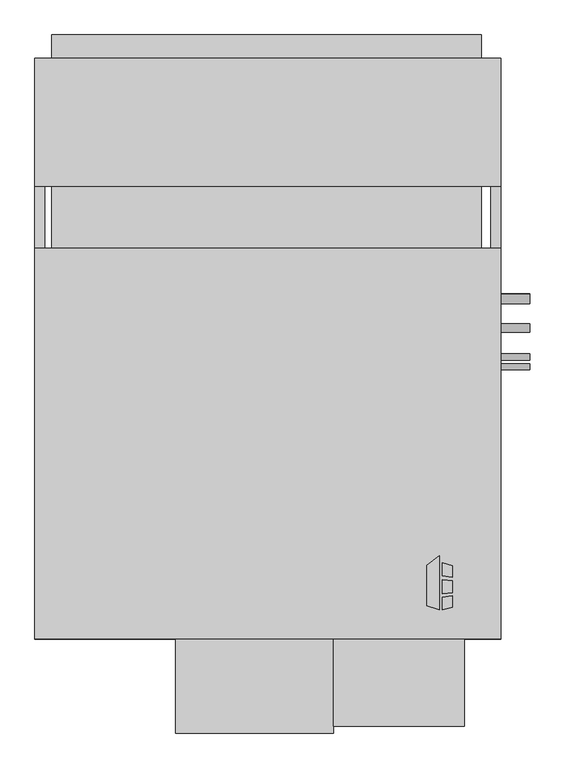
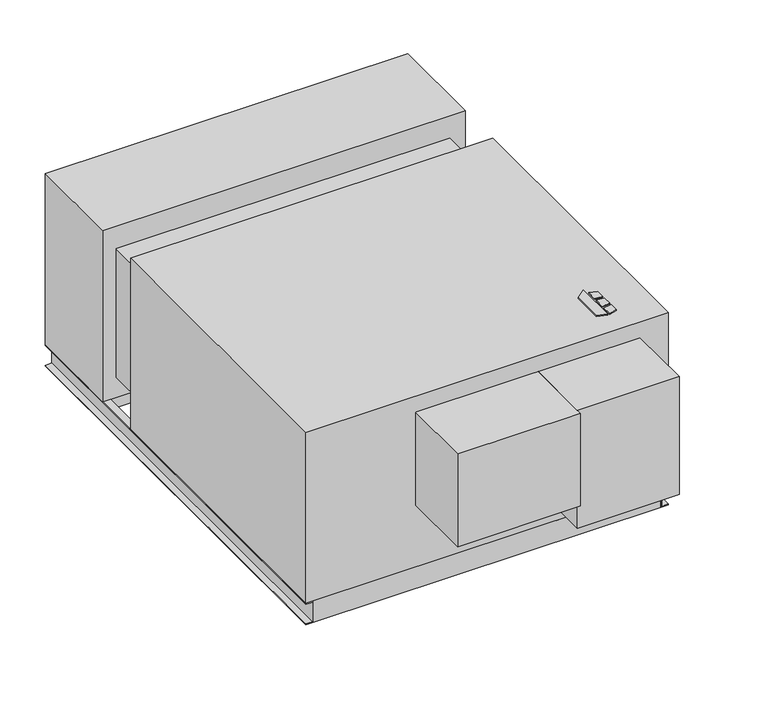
"""IFC4 building model written with IfcOpenShell, lengths in millimetres: proxy geometry, Horizontal_Direct_Drive_Blower_Coil_Unit_-_HDY_-_IEC_-_4-Pipe_NFilterR_W-MixingBox_RH_2022 : Size 20 - 460v/60Hz/3Ph - 6/2 Coil."""

from ifc_helpers import new_model, si_unit, point, frame, frame_2d, origin, origin_with_axes, place, context, project, spatial, polyline, circle_curve, trimmed, segment, composite_curve, outline, extrude, source, transform, mapped, element, save


def mechanical_equipment_916fd69d(model_context):
    return source(origin(), model_context, "Body", "SweptSolid", [
        extrude(outline(polyline([(-39.9980239, -337.5078476), (-7.4397272, -312.0705184), (-7.4397272, -454.025), (-39.9980239, -443.8054201), (-39.9980239, -337.5078476)])), origin_with_axes(), (0.0, 0.0, 1.0), 3.175),
        extrude(outline(polyline([(-0.6813942, -365.379852), (-0.6813942, -330.8999379), (25.4, -339.0865115), (25.4, -368.5822446), (-0.6813942, -365.379852)])), origin_with_axes(), (0.0, 0.0, 1.0), 3.175),
        extrude(outline(polyline([(25.4, -447.0365115), (-0.6813942, -454.025), (-0.6813942, -420.8036996), (25.4, -417.2618564), (25.4, -447.0365115)])), origin_with_axes(), (0.0, 0.0, 1.0), 3.175),
        extrude(outline(polyline([(25.4, -377.6638277), (25.4, -408.913983), (-0.6813942, -411.655248), (-0.6813942, -375.7975378), (25.4, -377.6638277)])), origin_with_axes(), (0.0, 0.0, 1.0), 3.175),
        extrude(outline(polyline([(101.6, 887.095), (101.6, 683.895), (-1022.35, 683.895), (-1022.35, 887.095), (101.6, 887.095)])), frame((0.0, 0.0, -670.56), z_axis=(0.0, 0.0, 1.0), x_axis=(1.0, 0.0, 0.0)), (0.0, 0.0, 1.0), 60.96),
        extrude(outline(polyline([(-1022.35, 1049.655), (101.6, 1049.655), (101.6, 988.695), (-1022.35, 988.695), (-1022.35, 1049.655)])), frame((0.0, 0.0, -279.4), z_axis=(0.0, 0.0, 1.0), x_axis=(1.0, 0.0, 0.0)), (0.0, 0.0, 1.0), 203.2),
        extrude(outline(polyline([(152.4, 988.695), (152.4, 654.05), (-1066.8, 654.05), (-1066.8, 988.695), (152.4, 988.695)])), frame((0.0, 0.0, -609.6), z_axis=(0.0, 0.0, 1.0), x_axis=(1.0, 0.0, 0.0)), (0.0, 0.0, 1.0), 609.6),
        extrude(outline(polyline([(127.0, -504.825), (127.0, -530.225), (-1041.4, -530.225), (-1041.4, -504.825), (127.0, -504.825)])), frame((0.0, 0.0, -685.8), z_axis=(0.0, 0.0, 1.0), x_axis=(1.0, 0.0, 0.0)), (0.0, 0.0, 1.0), 76.2),
        extrude(outline(polyline([(127.0, 988.695), (127.0, 963.295), (-1041.4, 963.295), (-1041.4, 988.695), (127.0, 988.695)])), frame((0.0, 0.0, -685.8), z_axis=(0.0, 0.0, 1.0), x_axis=(1.0, 0.0, 0.0)), (0.0, 0.0, 1.0), 76.2),
        extrude(outline(polyline([(-609.6, -1041.4), (-609.6, -1066.8), (-612.775, -1066.8), (-612.775, -1044.575), (-682.625, -1044.575), (-682.625, -1066.8), (-685.8, -1066.8), (-685.8, -1041.4), (-609.6, -1041.4)])), frame((0.0, -530.225, 0.0), z_axis=(0.0, 1.0, 0.0), x_axis=(0.0, 0.0, 1.0)), (0.0, 0.0, 1.0), 1518.92),
        extrude(outline(polyline([(-609.6, 127.0), (-685.8, 127.0), (-685.8, 152.4), (-682.625, 152.4), (-682.625, 130.175), (-612.775, 130.175), (-612.775, 152.4), (-609.6, 152.4), (-609.6, 127.0)])), frame((0.0, -530.225, 0.0), z_axis=(0.0, 1.0, 0.0), x_axis=(0.0, 0.0, 1.0)), (0.0, 0.0, 1.0), 1518.92),
        extrude(outline(composite_curve([segment(trimmed(circle_curve(frame_2d((358.775, -177.8)), 12.7), [point((371.475, -177.8))], [point((346.075, -177.8))], False, "CARTESIAN"), True, "CONTINUOUS"), segment(trimmed(circle_curve(frame_2d((358.775, -177.8)), 12.7), [point((346.075, -177.8))], [point((371.475, -177.8))], False, "CARTESIAN"), True, "CONTINUOUS")], self_intersect=False)), frame((152.4, 0.0, 0.0), z_axis=(1.0, 0.0, 0.0), x_axis=(0.0, 1.0, 0.0)), (0.0, 0.0, 1.0), 76.2),
        extrude(outline(composite_curve([segment(trimmed(circle_curve(frame_2d((359.642288, -482.6)), 12.7), [point((372.342288, -482.6))], [point((346.942288, -482.6))], False, "CARTESIAN"), True, "CONTINUOUS"), segment(trimmed(circle_curve(frame_2d((359.642288, -482.6)), 12.7), [point((346.942288, -482.6))], [point((372.342288, -482.6))], False, "CARTESIAN"), True, "CONTINUOUS")], self_intersect=False)), frame((152.4, 0.0, 0.0), z_axis=(1.0, 0.0, 0.0), x_axis=(0.0, 1.0, 0.0)), (0.0, 0.0, 1.0), 76.2),
        extrude(outline(composite_curve([segment(trimmed(circle_curve(frame_2d((283.442288, -565.15)), 11.1125), [point((294.554788, -565.15))], [point((272.329788, -565.15))], False, "CARTESIAN"), True, "CONTINUOUS"), segment(trimmed(circle_curve(frame_2d((283.442288, -565.15)), 11.1125), [point((272.329788, -565.15))], [point((294.554788, -565.15))], False, "CARTESIAN"), True, "CONTINUOUS")], self_intersect=False)), frame((152.4, 0.0, 0.0), z_axis=(1.0, 0.0, 0.0), x_axis=(0.0, 1.0, 0.0)), (0.0, 0.0, 1.0), 76.2),
        extrude(outline(composite_curve([segment(trimmed(circle_curve(frame_2d((207.242288, -228.6)), 7.9375), [point((215.179788, -228.6))], [point((199.304788, -228.6))], False, "CARTESIAN"), True, "CONTINUOUS"), segment(trimmed(circle_curve(frame_2d((207.242288, -228.6)), 7.9375), [point((199.304788, -228.6))], [point((215.179788, -228.6))], False, "CARTESIAN"), True, "CONTINUOUS")], self_intersect=False)), frame((152.4, 0.0, 0.0), z_axis=(1.0, 0.0, 0.0), x_axis=(0.0, 1.0, 0.0)), (0.0, 0.0, 1.0), 76.2),
        extrude(outline(composite_curve([segment(trimmed(circle_curve(frame_2d((181.842288, -432.0792556)), 7.9375), [point((189.779788, -432.0792556))], [point((173.904788, -432.0792556))], False, "CARTESIAN"), True, "CONTINUOUS"), segment(trimmed(circle_curve(frame_2d((181.842288, -432.0792556)), 7.9375), [point((173.904788, -432.0792556))], [point((189.779788, -432.0792556))], False, "CARTESIAN"), True, "CONTINUOUS")], self_intersect=False)), frame((152.4, 0.0, 0.0), z_axis=(1.0, 0.0, 0.0), x_axis=(0.0, 1.0, 0.0)), (0.0, 0.0, 1.0), 76.2),
        extrude(outline(polyline([(152.4, 492.125), (152.4, -530.225), (-1066.8, -530.225), (-1066.8, 492.125), (152.4, 492.125)])), frame((0.0, 0.0, -609.6), z_axis=(0.0, 0.0, 1.0), x_axis=(1.0, 0.0, 0.0)), (0.0, 0.0, 1.0), 609.6),
        extrude(outline(polyline([(57.15, -758.825), (-285.75, -758.825), (-285.75, -530.225), (57.15, -530.225), (57.15, -758.825)])), frame((0.0, 0.0, -476.25), z_axis=(0.0, 0.0, 1.0), x_axis=(1.0, 0.0, 0.0)), (0.0, 0.0, 1.0), 419.1),
        extrude(outline(polyline([(-1022.35, 654.05), (101.6, 654.05), (101.6, 492.125), (-1022.35, 492.125), (-1022.35, 654.05)])), frame((0.0, 0.0, -536.575), z_axis=(0.0, 0.0, 1.0), x_axis=(1.0, 0.0, 0.0)), (0.0, 0.0, 1.0), 457.2),
        extrude(outline(polyline([(-285.75, -776.2875), (-698.5, -776.2875), (-698.5, -530.225), (-285.75, -530.225), (-285.75, -776.2875)])), frame((0.0, 0.0, -387.35), z_axis=(0.0, 0.0, 1.0), x_axis=(1.0, 0.0, 0.0)), (0.0, 0.0, 1.0), 330.2),
    ])


if __name__ == "__main__":
    model = new_model("IFC4")
    model_context = context("Model", 3, world=origin())
    ifc_project = project(units=[si_unit("LENGTHUNIT", "METRE", prefix="MILLI")], contexts=[model_context])
    site = spatial("IfcSite", under=ifc_project)
    building = spatial("IfcBuilding", under=site)
    placement = place(None, origin())
    mechanical_equipment_shape = mechanical_equipment_916fd69d(model_context)
    element("IfcBuildingElementProxy", 1, Name="Horizontal_Direct_Drive_Blower_Coil_Unit_-_HDY_-_IEC_-_4-Pipe_NFilterR_W-MixingBox_RH_2022 : Size 20 - 460v/60Hz/3Ph - 6/2 Coil", ObjectType="Horizontal_Direct_Drive_Blower_Coil_Unit_-_HDY_-_IEC_-_4-Pipe_NFilterR_W-MixingBox_RH_2022 : Size 20 - 460v/60Hz/3Ph - 6/2 Coil", at=placement, inside=building, context=model_context, shape_type="MappedRepresentation", body=[
        mapped(mechanical_equipment_shape, transform((0.0, 0.0, 0.0), x_axis=(1.0, 0.0, 0.0), y_axis=(0.0, 1.0, 0.0), z_axis=(0.0, 0.0, 1.0))),
    ])
    save(model, "model.ifc")
